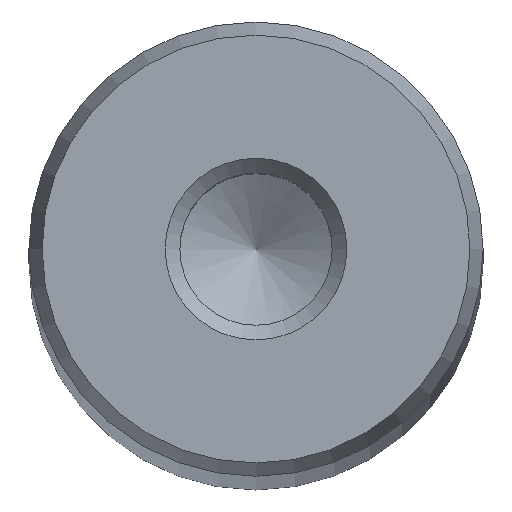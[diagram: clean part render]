
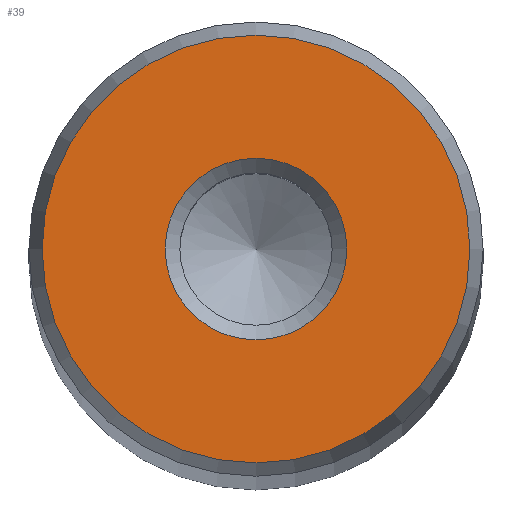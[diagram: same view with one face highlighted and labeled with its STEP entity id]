
A CAD part, top view. The second image highlights one B-rep face of the part: STEP entity #39.
In plain terms, the highlighted planar face has unit normal (0, 0, 1).
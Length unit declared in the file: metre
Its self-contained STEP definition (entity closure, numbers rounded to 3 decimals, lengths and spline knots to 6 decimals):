
#39 = ADVANCED_FACE( '', ( #84, #85 ), #86, .T. );
#84 = FACE_OUTER_BOUND( '', #143, .T. );
#85 = FACE_BOUND( '', #144, .T. );
#86 = PLANE( '', #145 );
#143 = EDGE_LOOP( '', ( #198 ) );
#144 = EDGE_LOOP( '', ( #199 ) );
#145 = AXIS2_PLACEMENT_3D( '', #200, #201, #202 );
#198 = ORIENTED_EDGE( '', *, *, #273, .T. );
#199 = ORIENTED_EDGE( '', *, *, #274, .T. );
#200 = CARTESIAN_POINT( '', ( 0., 0., 0.436 ) );
#201 = DIRECTION( '', ( 0., 0., 1. ) );
#202 = DIRECTION( '', ( 1., 0., 0. ) );
#273 = EDGE_CURVE( '', #302, #302, #303, .T. );
#274 = EDGE_CURVE( '', #304, #304, #305, .T. );
#302 = VERTEX_POINT( '', #339 );
#303 = CIRCLE( '', #340, 0.011772 );
#304 = VERTEX_POINT( '', #341 );
#305 = CIRCLE( '', #342, 0.005 );
#339 = CARTESIAN_POINT( '', ( 0.011772, 0., 0.436 ) );
#340 = AXIS2_PLACEMENT_3D( '', #376, #377, #378 );
#341 = CARTESIAN_POINT( '', ( 0.005, 0., 0.436 ) );
#342 = AXIS2_PLACEMENT_3D( '', #379, #380, #381 );
#376 = CARTESIAN_POINT( '', ( 0., 0., 0.436 ) );
#377 = DIRECTION( '', ( 0., 0., 1. ) );
#378 = DIRECTION( '', ( 1., 0., 0. ) );
#379 = CARTESIAN_POINT( '', ( 0., 0., 0.436 ) );
#380 = DIRECTION( '', ( 0., 0., -1. ) );
#381 = DIRECTION( '', ( 1., 0., 0. ) );
